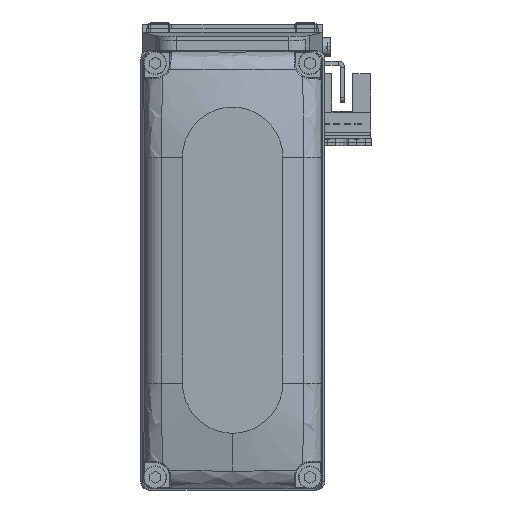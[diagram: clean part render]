
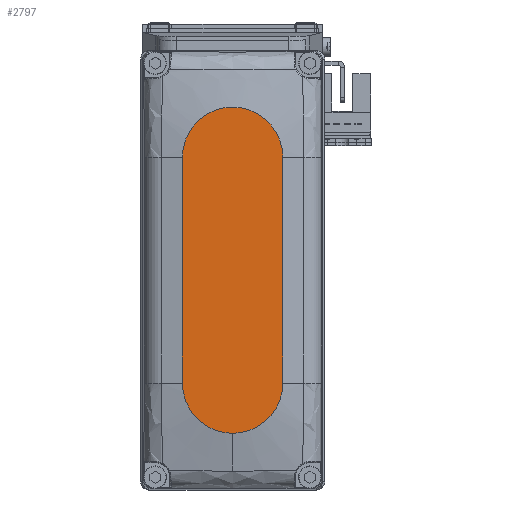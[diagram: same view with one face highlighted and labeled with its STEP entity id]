
A CAD part, top view. The second image highlights one B-rep face of the part: STEP entity #2797.
In plain terms, the highlighted planar face has unit normal (0, 0, 1).
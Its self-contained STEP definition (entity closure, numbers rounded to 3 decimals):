
#2797 = ADVANCED_FACE ( 'NONE', ( #77513 ), #23422, .T. ) ;
#3435 = EDGE_CURVE ( 'NONE', #10572, #72976, #19260, .T. ) ;
#4311 = DIRECTION ( 'NONE',  ( 1., 0., 0. ) ) ;
#4531 = VERTEX_POINT ( 'NONE', #58373 ) ;
#9808 = CIRCLE ( 'NONE', #53889, 12. ) ;
#10529 = EDGE_LOOP ( 'NONE', ( #32895, #70136, #33992, #49863, #62839 ) ) ;
#10572 = VERTEX_POINT ( 'NONE', #42895 ) ;
#11256 = DIRECTION ( 'NONE',  ( 0., 0., 1. ) ) ;
#12632 = DIRECTION ( 'NONE',  ( 0., 0., 1. ) ) ;
#13068 = EDGE_CURVE ( 'NONE', #4531, #26071, #34266, .T. ) ;
#17526 = DIRECTION ( 'NONE',  ( 1., 0., 0. ) ) ;
#18948 = DIRECTION ( 'NONE',  ( 1., 0., 0. ) ) ;
#19260 = LINE ( 'NONE', #43329, #19356 ) ;
#19356 = VECTOR ( 'NONE', #67422, 1000. ) ;
#22368 = AXIS2_PLACEMENT_3D ( 'NONE', #48932, #73022, #18948 ) ;
#22532 = CARTESIAN_POINT ( 'NONE',  ( 27., -12., 25. ) ) ;
#22985 = AXIS2_PLACEMENT_3D ( 'NONE', #47512, #71590, #17526 ) ;
#23422 = PLANE ( 'NONE',  #22985 ) ;
#26071 = VERTEX_POINT ( 'NONE', #22532 ) ;
#27106 = CIRCLE ( 'NONE', #71251, 12. ) ;
#31967 = EDGE_CURVE ( 'NONE', #72976, #4531, #9808, .T. ) ;
#32895 = ORIENTED_EDGE ( 'NONE', *, *, #3435, .T. ) ;
#33992 = ORIENTED_EDGE ( 'NONE', *, *, #13068, .T. ) ;
#34266 = LINE ( 'NONE', #58345, #52124 ) ;
#35313 = DIRECTION ( 'NONE',  ( 1., 0., 0. ) ) ;
#36689 = DIRECTION ( 'NONE',  ( 1., 0., 0. ) ) ;
#42895 = CARTESIAN_POINT ( 'NONE',  ( 27., 12., 25. ) ) ;
#43329 = CARTESIAN_POINT ( 'NONE',  ( -27., 12., 25. ) ) ;
#47512 = CARTESIAN_POINT ( 'NONE',  ( 0., 0., 25. ) ) ;
#48932 = CARTESIAN_POINT ( 'NONE',  ( 27., 0., 25. ) ) ;
#49863 = ORIENTED_EDGE ( 'NONE', *, *, #63551, .T. ) ;
#51521 = CARTESIAN_POINT ( 'NONE',  ( -27., 12., 25. ) ) ;
#52124 = VECTOR ( 'NONE', #4311, 1000. ) ;
#52299 = EDGE_CURVE ( 'NONE', #57508, #10572, #27106, .T. ) ;
#53889 = AXIS2_PLACEMENT_3D ( 'NONE', #65317, #11256, #35313 ) ;
#56421 = CIRCLE ( 'NONE', #22368, 12. ) ;
#57508 = VERTEX_POINT ( 'NONE', #75544 ) ;
#58345 = CARTESIAN_POINT ( 'NONE',  ( -27., -12., 25. ) ) ;
#58373 = CARTESIAN_POINT ( 'NONE',  ( -27., -12., 25. ) ) ;
#62839 = ORIENTED_EDGE ( 'NONE', *, *, #52299, .T. ) ;
#63551 = EDGE_CURVE ( 'NONE', #26071, #57508, #56421, .T. ) ;
#65317 = CARTESIAN_POINT ( 'NONE',  ( -27., 0., 25. ) ) ;
#66695 = CARTESIAN_POINT ( 'NONE',  ( 27., 0., 25. ) ) ;
#67422 = DIRECTION ( 'NONE',  ( -1., 0., 0. ) ) ;
#70136 = ORIENTED_EDGE ( 'NONE', *, *, #31967, .T. ) ;
#71251 = AXIS2_PLACEMENT_3D ( 'NONE', #66695, #12632, #36689 ) ;
#71590 = DIRECTION ( 'NONE',  ( 0., 0., 1. ) ) ;
#72976 = VERTEX_POINT ( 'NONE', #51521 ) ;
#73022 = DIRECTION ( 'NONE',  ( 0., 0., 1. ) ) ;
#75544 = CARTESIAN_POINT ( 'NONE',  ( 39., 0., 25. ) ) ;
#77513 = FACE_OUTER_BOUND ( 'NONE', #10529, .T. ) ;
